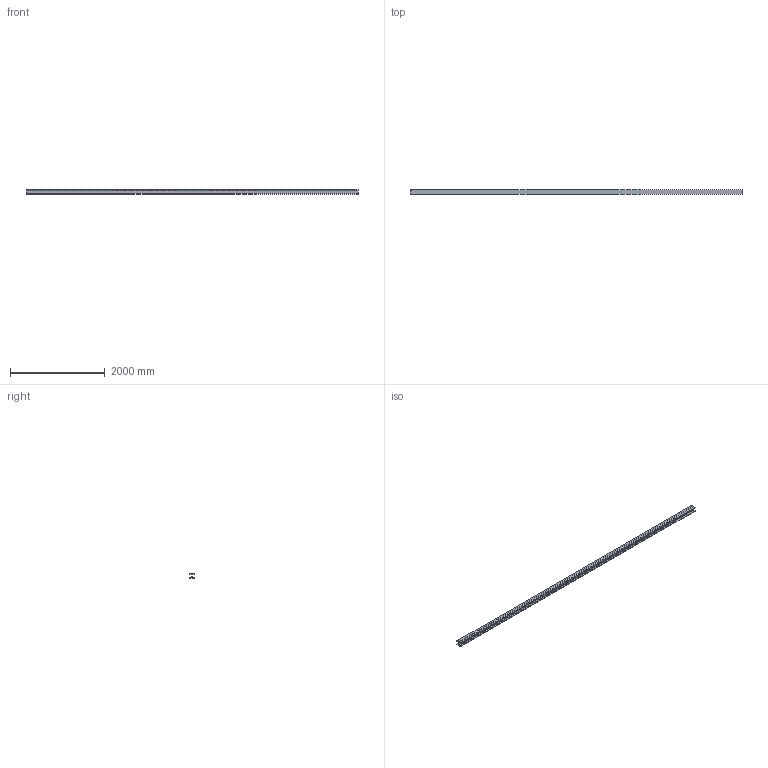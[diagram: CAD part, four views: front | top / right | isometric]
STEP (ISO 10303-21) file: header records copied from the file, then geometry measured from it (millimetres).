
FILE_DESCRIPTION (( 'STEP AP214' ), '1' );
FILE_NAME ('CCJ029-REP.011 - POUTRE C1-C4.STEP', '2024-01-10T14:15:10', ( '' ), ( '' ), 'SwSTEP 2.0', 'SolidWorks 2021', '' );
FILE_SCHEMA (( 'AUTOMOTIVE_DESIGN' ));
Length unit declared in the file: millimetre
Products named in the file (1): CCJ029-REP.011 - POUTRE C1-C4
Bounding box: 6995 x 100 x 100 mm (x, y, z)
Volume: 18209131.2 mm3; surface area: 3974495.9 mm2
Topology: 1 solids, 1 shells, 47 faces, 123 edges, 82 vertices
Faces by surface type: plane 30, bspline 9, cylinder 8
Entity records: 2197 total; most frequent: CARTESIAN_POINT 1038, ORIENTED_EDGE 246, DIRECTION 199, EDGE_CURVE 123, LINE 89, VECTOR 89, VERTEX_POINT 82, AXIS2_PLACEMENT_3D 55
